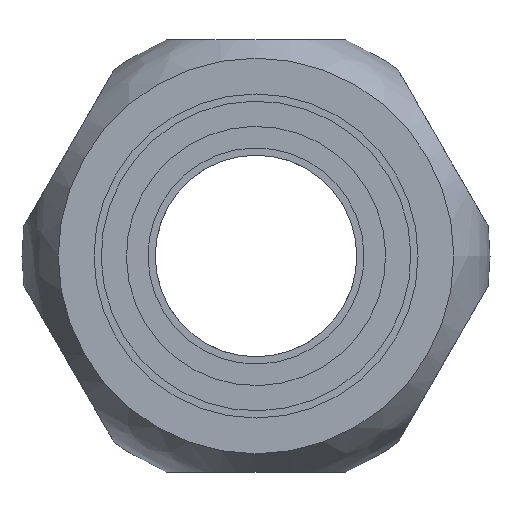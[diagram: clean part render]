
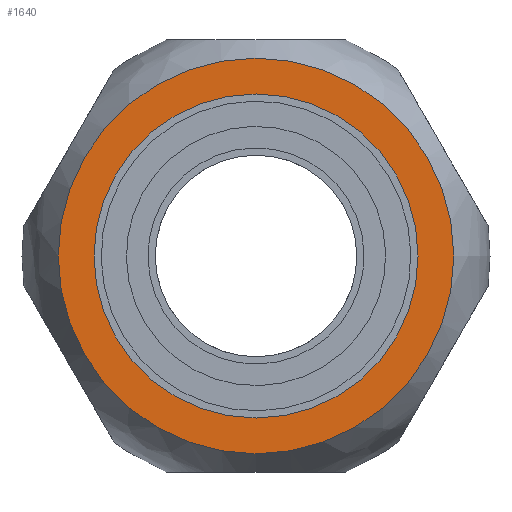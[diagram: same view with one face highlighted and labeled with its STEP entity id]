
A CAD part, left-side view. The second image highlights one B-rep face of the part: STEP entity #1640.
In plain terms, the highlighted planar face has unit normal (-1, 0, 0).
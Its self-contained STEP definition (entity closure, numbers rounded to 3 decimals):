
#1537=CARTESIAN_POINT('',(0.0,13.735,0.0));
#1538=VERTEX_POINT('',#1537);
#1539=CARTESIAN_POINT('',(0.0,0.0,0.0));
#1540=DIRECTION('',(1.0,0.0,0.0));
#1541=DIRECTION('',(0.0,1.0,0.0));
#1542=AXIS2_PLACEMENT_3D('',#1539,#1540,#1541);
#1543=CIRCLE('',#1542,13.735);
#1544=EDGE_CURVE('',#1538,#1538,#1543,.T.);
#1614=CARTESIAN_POINT('',(0.0,11.25,0.0));
#1615=VERTEX_POINT('',#1614);
#1616=CARTESIAN_POINT('',(0.0,0.0,0.0));
#1617=DIRECTION('',(1.0,0.0,0.0));
#1618=DIRECTION('',(0.0,1.0,0.0));
#1619=AXIS2_PLACEMENT_3D('',#1616,#1617,#1618);
#1620=CIRCLE('',#1619,11.25);
#1621=EDGE_CURVE('',#1615,#1615,#1620,.T.);
#1629=CARTESIAN_POINT('',(0.0,12.493,0.0));
#1630=DIRECTION('',(-1.0,0.0,0.0));
#1631=DIRECTION('',(0.0,0.0,1.0));
#1632=AXIS2_PLACEMENT_3D('',#1629,#1630,#1631);
#1633=PLANE('',#1632);
#1634=ORIENTED_EDGE('',*,*,#1544,.F.);
#1635=EDGE_LOOP('',(#1634));
#1636=FACE_OUTER_BOUND('',#1635,.T.);
#1637=ORIENTED_EDGE('',*,*,#1621,.T.);
#1638=EDGE_LOOP('',(#1637));
#1639=FACE_BOUND('',#1638,.T.);
#1640=ADVANCED_FACE('',(#1636,#1639),#1633,.T.);
